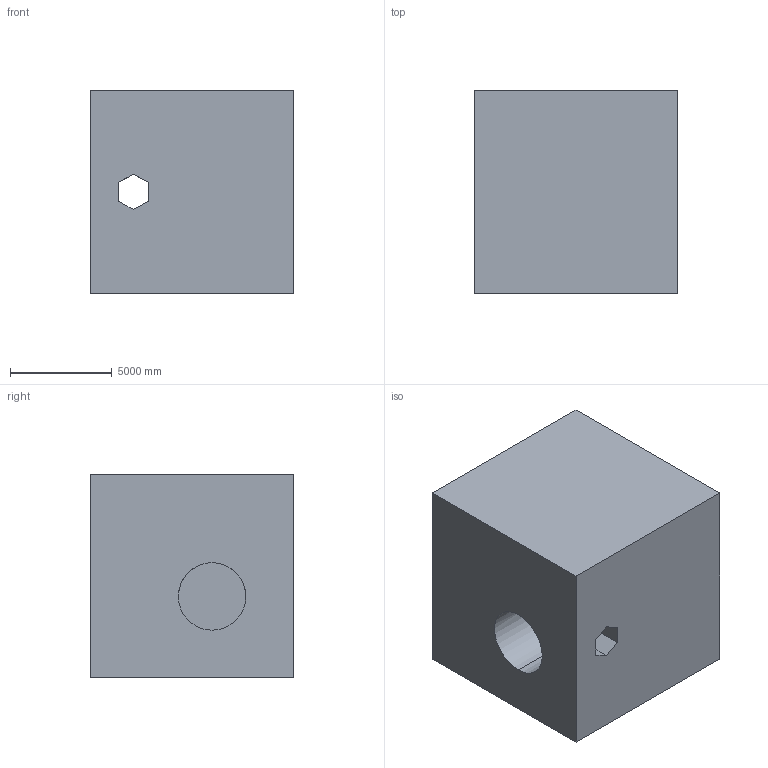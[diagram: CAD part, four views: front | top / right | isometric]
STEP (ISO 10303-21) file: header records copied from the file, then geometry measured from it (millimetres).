
FILE_DESCRIPTION (( 'STEP AP203' ), '1' );
FILE_NAME ('15.STEP', '2022-09-02T13:40:54', ( 'user' ), ( '' ), 'SwSTEP 2.0', 'SolidWorks 2021', '' );
FILE_SCHEMA (( 'CONFIG_CONTROL_DESIGN' ));
Length unit declared in the file: centimetre
Products named in the file (1): 15
Bounding box: 10000 x 10000 x 10000 mm (x, y, z)
Volume: 941486354634.5 mm3; surface area: 683662982.5 mm2
Topology: 1 solids, 1 shells, 19 faces, 54 edges, 36 vertices
Faces by surface type: plane 17, cylinder 2
Entity records: 701 total; most frequent: CARTESIAN_POINT 134, ORIENTED_EDGE 108, DIRECTION 94, EDGE_CURVE 54, LINE 38, VECTOR 38, VERTEX_POINT 36, AXIS2_PLACEMENT_3D 28
